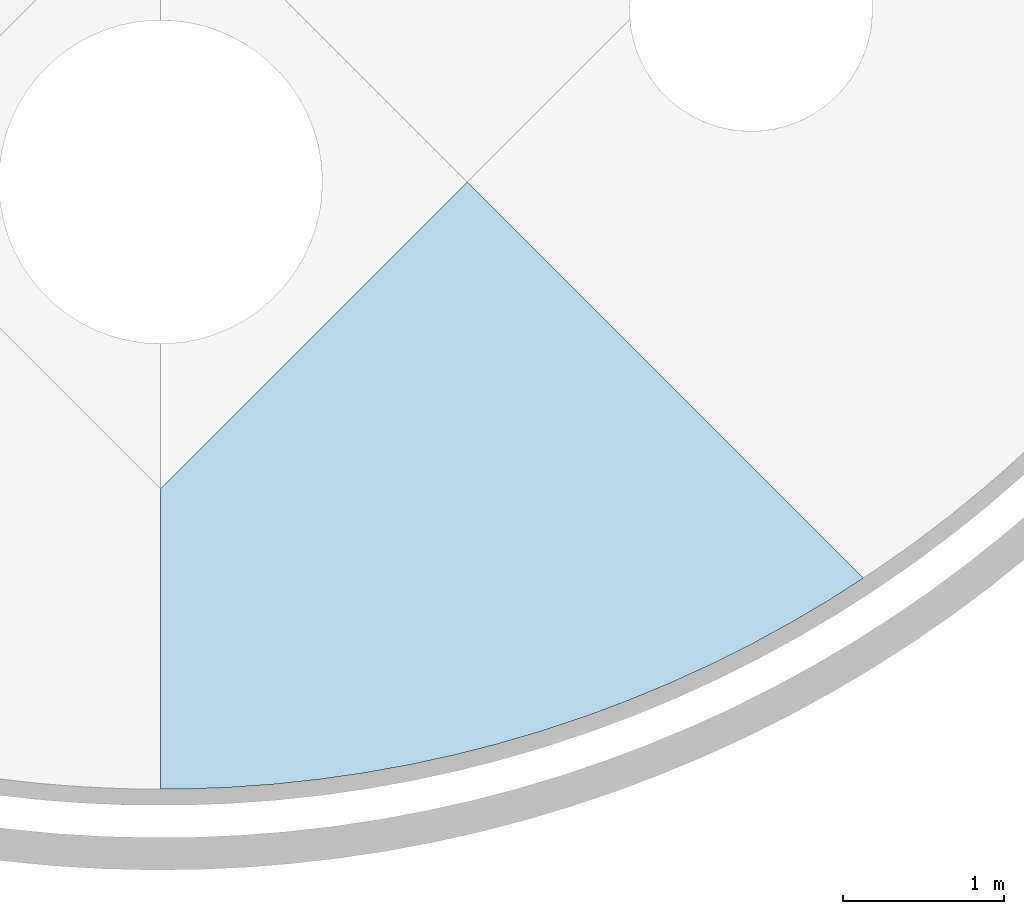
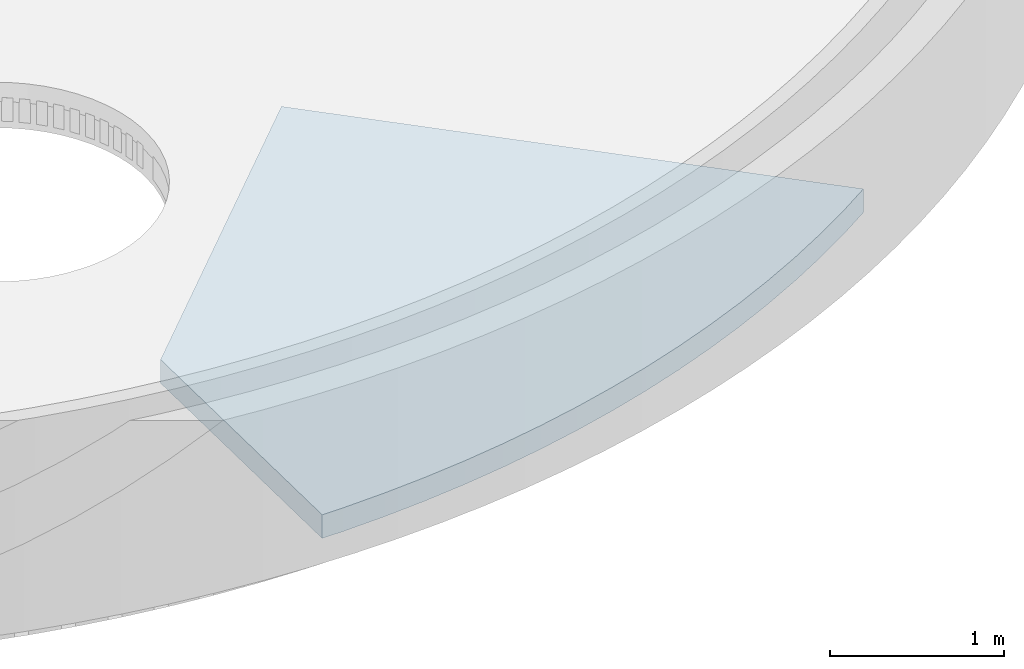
# One storey, part 5 of 10: 1 slab.
"""IFC4 building model written with IfcOpenShell, lengths in millimetres."""

from ifc_helpers import new_model, entity, si_unit, converted_unit, derived_unit, direction, frame, origin_with_axes, place, context, subcontext, project, spatial, polygons, material, constituent, constituent_set, type_object, element, save


model = new_model("IFC4")

# Units and contexts
model_context = context("Model", 3, precision=0.01, world=origin_with_axes(), true_north=direction((0.0, 1.0)))
body_context = subcontext(model_context, "Body", "Model", "MODEL_VIEW")
ifc_project = project(units=[si_unit("LENGTHUNIT", "METRE", prefix="MILLI"), si_unit("AREAUNIT", "SQUARE_METRE"), si_unit("VOLUMEUNIT", "CUBIC_METRE"), converted_unit("PLANEANGLEUNIT", "DEGREE", entity("IfcPlaneAngleMeasure", 0.0174532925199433), si_unit("PLANEANGLEUNIT", "RADIAN"), dimensions=[0, 0, 0, 0, 0, 0, 0]), converted_unit("TIMEUNIT", "Year", entity("IfcTimeMeasure", 31557600.0), si_unit("TIMEUNIT", "SECOND"), dimensions=[0, 0, 1, 0, 0, 0, 0]), si_unit("MASSUNIT", "GRAM", prefix="KILO"), si_unit("THERMODYNAMICTEMPERATUREUNIT", "DEGREE_CELSIUS"), si_unit("LUMINOUSINTENSITYUNIT", "LUMEN"), si_unit("ENERGYUNIT", "JOULE", prefix="MEGA"), derived_unit("THERMALCONDUCTANCEUNIT", [(si_unit("POWERUNIT", "WATT"), 1), (si_unit("LENGTHUNIT", "METRE"), -1), (si_unit("THERMODYNAMICTEMPERATUREUNIT", "KELVIN"), -1)]), derived_unit("SPECIFICHEATCAPACITYUNIT", [(si_unit("ENERGYUNIT", "JOULE"), 1), (si_unit("MASSUNIT", "GRAM", prefix="KILO"), -1), (si_unit("THERMODYNAMICTEMPERATUREUNIT", "KELVIN"), -1)]), derived_unit("MASSDENSITYUNIT", [(si_unit("MASSUNIT", "GRAM", prefix="KILO"), 1), (si_unit("VOLUMEUNIT", "CUBIC_METRE"), -1)])], contexts=[model_context])

# Site, building, storey
site_placement = place(None, origin_with_axes())
site = spatial("IfcSite", under=ifc_project, at=site_placement, Name="Exteriér", CompositionType="ELEMENT")
building_placement = place(site_placement, origin_with_axes())
building = spatial("IfcBuilding", under=site, at=building_placement, Name="Univerzitní lezecké centrum", CompositionType="ELEMENT")
storey_placement = place(building_placement, frame((0.0, 0.0, 9600.000000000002), z_axis=(0.0, 0.0, 1.0), x_axis=(1.0, 0.0, 0.0)))
storey = spatial("IfcBuildingStorey", under=building, at=storey_placement, Name="4.NP", CompositionType="ELEMENT", Elevation=9600.0)

# Slab
ifc_material_1 = material(Name="TPO fólie ochranná")
ifc_constituent_1 = constituent(ifc_material_1, Name="TPO fólie ochranná")
ifc_material_2 = material(Name="Geotextilie 200 g/m2")
ifc_constituent_2 = constituent(ifc_material_2, Name="Geotextilie 200 g/m2")
ifc_material_3 = material(Name="Hydroizolace - TPO fólie")
ifc_constituent_3 = constituent(ifc_material_3, Name="Hydroizolace - TPO fólie")
ifc_material_4 = material(Name="Tepelná izolace - polystyren EPS podlahy")
ifc_constituent_4 = constituent(ifc_material_4, Name="Tepelná izolace - polystyren EPS podlahy")
ifc_constituent_set = constituent_set(constituents=[ifc_constituent_1, ifc_constituent_2, ifc_constituent_3, ifc_constituent_4], Name="!Podlaha spádovaná - terasy - TI + HI vrstva")
slab_type = type_object("IfcSlabType", Name="!Podlaha spádovaná - terasy - TI + HI vrstva 166", PredefinedType="ROOF")
slab_placement = place(storey_placement, frame((5887.716672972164, -4447.558334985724, -300.0062110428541), z_axis=(0.0, 0.0, 1.0), x_axis=(-0.9999973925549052, 0.002283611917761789, 0.0)))
element("IfcSlab", 1, at=slab_placement, inside=storey, type_object=slab_type, material=ifc_constituent_set, PredefinedType="ROOF", context=body_context, shape_type="Tessellation", body=[
    polygons([(3433.658163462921, 1900.177471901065, 204.0367461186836), (3429.29323787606, 3760.282644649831, 241.2388495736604), (3288.263956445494, 3759.960700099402, 241.2324106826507), (3006.40809596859, 3749.249892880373, 241.0181945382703), (2725.114120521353, 3728.485816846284, 240.6029130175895), (2444.740496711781, 3697.694932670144, 239.987095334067), (2165.644518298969, 3656.916478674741, 239.1715262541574), (1888.181850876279, 3606.20242082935, 238.1572450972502), (1612.706078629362, 3545.617386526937, 236.9455444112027), (1339.568253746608, 3475.238582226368, 235.5379683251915), (1069.116449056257, 3395.15569506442, 233.9363105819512), (801.6953144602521, 3305.470778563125, 232.1426122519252), (537.6456377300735, 3206.298122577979, 230.1591591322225), (277.3039102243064, 3097.764107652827, 227.9884788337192), (21.00189808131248, 2980.007043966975, 225.6333375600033), (-230.9337805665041, 2853.176995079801, 223.09673658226), (-478.1820718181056, 2717.435586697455, 220.3819084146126), (-720.4278951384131, 2572.955800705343, 217.4923126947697), (-920.4225951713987, 2443.06551673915, 214.8945070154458), (1537.878244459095, -4.03326464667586, 165.9525313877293), (3433.658257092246, 1900.177565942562, 202.0363480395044), (3429.293331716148, 3760.282644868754, 239.2384496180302), (3288.263956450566, 3759.960700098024, 239.2320107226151), (3006.408095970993, 3749.249892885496, 239.0177945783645), (2725.114120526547, 3728.485816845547, 238.6025130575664), (2444.740496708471, 3697.69493266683, 237.9866953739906), (2165.644518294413, 3656.916478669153, 237.1711262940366), (1888.181850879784, 3606.202420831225, 236.1568451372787), (1612.706078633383, 3545.617386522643, 234.9451444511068), (1339.568253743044, 3475.238582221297, 233.5375683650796), (1069.116449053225, 3395.155695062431, 231.9359106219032), (801.6953144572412, 3305.470778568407, 230.1422122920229), (537.6456377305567, 3206.298122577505, 228.1587591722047), (277.3039102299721, 3097.764107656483, 225.9880788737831), (21.00189808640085, 2980.007043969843, 223.6329376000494), (-230.9337805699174, 2853.176995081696, 221.0963366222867), (-478.1820718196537, 2717.435586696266, 218.3815084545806), (-720.427895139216, 2572.955800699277, 215.49191273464), (-920.4225951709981, 2443.065516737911, 212.894107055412), (1537.878244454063, -4.033264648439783, 163.9521314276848)], [[[1, 2, 3, 4, 5, 6, 7, 8, 9, 10, 11, 12, 13, 14, 15, 16, 17, 18, 19, 20]], [[1, 21, 22, 2]], [[2, 22, 23, 3]], [[3, 23, 24, 4]], [[4, 24, 25, 5]], [[5, 25, 26, 6]], [[6, 26, 27, 7]], [[7, 27, 28, 8]], [[8, 28, 29, 9]], [[9, 29, 30, 10]], [[10, 30, 31, 11]], [[11, 31, 32, 12]], [[12, 32, 33, 13]], [[13, 33, 34, 14]], [[14, 34, 35, 15]], [[15, 35, 36, 16]], [[16, 36, 37, 17]], [[17, 37, 38, 18]], [[18, 38, 39, 19]], [[19, 39, 40, 20]], [[20, 40, 21, 1]], [[21, 40, 39, 38, 37, 36, 35, 34, 33, 32, 31, 30, 29, 28, 27, 26, 25, 24, 23, 22]]], closed=True),
    polygons([(1537.878244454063, -4.033264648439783, 163.9521314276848), (1537.878244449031, -4.033264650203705, 161.9517314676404), (3433.658350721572, 1900.17765998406, 200.035949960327), (3433.658257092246, 1900.177565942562, 202.0363480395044), (-920.4225951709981, 2443.065516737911, 212.894107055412), (-920.4225951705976, 2443.065516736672, 210.8937070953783), (-720.4278951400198, 2572.955800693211, 213.4915127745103), (-478.1820718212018, 2717.435586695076, 216.3811084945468), (-230.9337805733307, 2853.17699508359, 219.0959366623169), (21.00189809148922, 2980.007043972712, 221.6325376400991), (277.3039102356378, 3097.764107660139, 223.9876789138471), (537.6456377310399, 3206.29812257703, 226.1583592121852), (801.6953144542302, 3305.47077857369, 228.1418123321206), (1069.116449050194, 3395.155695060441, 229.9355106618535), (1339.56825373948, 3475.238582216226, 231.5371684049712), (1612.706078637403, 3545.617386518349, 232.9447444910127), (1888.181850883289, 3606.202420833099, 234.156445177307), (2165.644518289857, 3656.916478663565, 235.1707263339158), (2444.740496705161, 3697.694932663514, 235.986295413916), (2725.114120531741, 3728.485816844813, 236.6021130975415), (3006.408095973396, 3749.249892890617, 237.0173946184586), (3288.263956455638, 3759.960700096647, 237.2316107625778), (3429.293425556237, 3760.282645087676, 237.2380496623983), (3429.293331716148, 3760.282644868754, 239.2384496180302), (3288.263956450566, 3759.960700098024, 239.2320107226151), (3006.408095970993, 3749.249892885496, 239.0177945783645), (2725.114120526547, 3728.485816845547, 238.6025130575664), (2444.740496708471, 3697.69493266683, 237.9866953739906), (2165.644518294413, 3656.916478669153, 237.1711262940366), (1888.181850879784, 3606.202420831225, 236.1568451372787), (1612.706078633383, 3545.617386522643, 234.9451444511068), (1339.568253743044, 3475.238582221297, 233.5375683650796), (1069.116449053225, 3395.155695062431, 231.9359106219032), (801.6953144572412, 3305.470778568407, 230.1422122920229), (537.6456377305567, 3206.298122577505, 228.1587591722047), (277.3039102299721, 3097.764107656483, 225.9880788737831), (21.00189808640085, 2980.007043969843, 223.6329376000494), (-230.9337805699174, 2853.176995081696, 221.0963366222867), (-478.1820718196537, 2717.435586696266, 218.3815084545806), (-720.427895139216, 2572.955800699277, 215.49191273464)], [[[1, 2, 3, 4]], [[5, 6, 2, 1]], [[3, 2, 6, 7, 8, 9, 10, 11, 12, 13, 14, 15, 16, 17, 18, 19, 20, 21, 22, 23]], [[4, 3, 23, 24]], [[4, 24, 25, 26, 27, 28, 29, 30, 31, 32, 33, 34, 35, 36, 37, 38, 39, 40, 5, 1]], [[40, 7, 6, 5]], [[39, 8, 7, 40]], [[38, 9, 8, 39]], [[37, 10, 9, 38]], [[36, 11, 10, 37]], [[35, 12, 11, 36]], [[34, 13, 12, 35]], [[33, 14, 13, 34]], [[32, 15, 14, 33]], [[31, 16, 15, 32]], [[30, 17, 16, 31]], [[29, 18, 17, 30]], [[28, 19, 18, 29]], [[27, 20, 19, 28]], [[26, 21, 20, 27]], [[25, 22, 21, 26]], [[24, 23, 22, 25]]], closed=True),
    polygons([(1537.87824444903, -4.033264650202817, 161.951731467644), (1537.878244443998, -4.033264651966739, 159.9513315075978), (3433.658444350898, 1900.177754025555, 198.0355518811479), (3433.658350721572, 1900.17765998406, 200.035949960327), (-920.4225951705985, 2443.065516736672, 210.89370709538), (-920.4225951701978, 2443.065516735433, 208.8933071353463), (-720.4278951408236, 2572.955800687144, 211.4911128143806), (-478.1820718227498, 2717.435586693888, 214.3807085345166), (-230.9337805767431, 2853.176995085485, 217.095536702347), (21.00189809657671, 2980.007043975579, 219.6321376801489), (277.3039102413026, 3097.764107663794, 221.9872789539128), (537.645637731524, 3206.298122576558, 224.1579592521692), (801.6953144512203, 3305.470778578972, 226.1414123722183), (1069.116449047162, 3395.155695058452, 227.9351107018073), (1339.568253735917, 3475.238582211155, 229.5367684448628), (1612.706078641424, 3545.617386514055, 230.9443445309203), (1888.181850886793, 3606.202420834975, 232.1560452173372), (2165.644518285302, 3656.91647865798, 233.1703263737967), (2444.74049670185, 3697.6949326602, 233.9858954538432), (2725.114120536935, 3728.485816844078, 234.6017131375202), (3006.408095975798, 3749.249892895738, 235.0169946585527), (3288.263956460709, 3759.960700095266, 235.2312108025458), (3429.293519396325, 3760.2826453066, 235.2376497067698), (3429.293425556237, 3760.282645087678, 237.2380496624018), (3288.263956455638, 3759.960700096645, 237.2316107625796), (3006.408095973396, 3749.249892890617, 237.0173946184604), (2725.114120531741, 3728.485816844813, 236.6021130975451), (2444.740496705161, 3697.694932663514, 235.9862954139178), (2165.644518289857, 3656.916478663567, 235.1707263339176), (1888.181850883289, 3606.202420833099, 234.1564451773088), (1612.706078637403, 3545.61738651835, 232.9447444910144), (1339.568253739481, 3475.238582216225, 231.5371684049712), (1069.116449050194, 3395.155695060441, 229.9355106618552), (801.6953144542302, 3305.47077857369, 228.1418123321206), (537.6456377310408, 3206.298122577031, 226.1583592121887), (277.3039102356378, 3097.764107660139, 223.9876789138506), (21.00189809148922, 2980.007043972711, 221.6325376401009), (-230.9337805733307, 2853.176995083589, 219.0959366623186), (-478.1820718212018, 2717.435586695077, 216.3811084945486), (-720.4278951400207, 2572.955800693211, 213.491512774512)], [[[1, 2, 3, 4]], [[5, 6, 2, 1]], [[3, 2, 6, 7, 8, 9, 10, 11, 12, 13, 14, 15, 16, 17, 18, 19, 20, 21, 22, 23]], [[4, 3, 23, 24]], [[4, 24, 25, 26, 27, 28, 29, 30, 31, 32, 33, 34, 35, 36, 37, 38, 39, 40, 5, 1]], [[40, 7, 6, 5]], [[39, 8, 7, 40]], [[38, 9, 8, 39]], [[37, 10, 9, 38]], [[36, 11, 10, 37]], [[35, 12, 11, 36]], [[34, 13, 12, 35]], [[33, 14, 13, 34]], [[32, 15, 14, 33]], [[31, 16, 15, 32]], [[30, 17, 16, 31]], [[29, 18, 17, 30]], [[28, 19, 18, 29]], [[27, 20, 19, 28]], [[26, 21, 20, 27]], [[25, 22, 21, 26]], [[24, 23, 22, 25]]], closed=True),
    polygons([(1537.878244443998, -4.033264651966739, 159.9513315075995), (1537.878244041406, -4.033264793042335, -0.08066549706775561), (3433.665934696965, 1900.185277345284, 38.00370534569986), (3433.658444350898, 1900.177754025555, 198.0355518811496), (-920.4225951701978, 2443.065516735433, 208.8933071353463), (-920.4225951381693, 2443.065516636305, 48.86131013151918), (-720.4278952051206, 2572.95580020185, 51.45911580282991), (-478.1820719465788, 2717.435586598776, 54.34871153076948), (-230.9337808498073, 2853.176995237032, 57.06353970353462), (21.00189850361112, 2980.007044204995, 59.60014068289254), (277.3039106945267, 3097.764107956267, 61.95528195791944), (537.6456377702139, 3206.298122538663, 64.12596224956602), (801.6953142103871, 3305.470779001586, 66.10941537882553), (1069.116448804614, 3395.155694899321, 67.90311369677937), (1339.568253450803, 3475.238581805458, 69.50477143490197), (1612.7060789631, 3545.617386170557, 70.91234752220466), (1888.181851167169, 3606.202420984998, 72.12404821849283), (2165.644517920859, 3656.916478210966, 73.13832936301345), (2444.74049643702, 3697.694932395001, 73.95389844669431), (2725.114120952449, 3728.48581678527, 74.56971613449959), (3006.408096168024, 3749.249893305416, 74.98499766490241), (3288.263956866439, 3759.960699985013, 75.19921379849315), (3429.301026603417, 3760.282662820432, 75.20565305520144), (3429.293519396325, 3760.2826453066, 235.2376497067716), (3288.263956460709, 3759.960700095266, 235.2312108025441), (3006.408095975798, 3749.249892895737, 235.0169946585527), (2725.114120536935, 3728.485816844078, 234.601713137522), (2444.74049670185, 3697.6949326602, 233.9858954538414), (2165.644518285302, 3656.91647865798, 233.1703263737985), (1888.181850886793, 3606.202420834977, 232.156045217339), (1612.706078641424, 3545.617386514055, 230.9443445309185), (1339.568253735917, 3475.238582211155, 229.536768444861), (1069.116449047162, 3395.155695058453, 227.9351107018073), (801.6953144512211, 3305.470778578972, 226.1414123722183), (537.645637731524, 3206.298122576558, 224.1579592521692), (277.3039102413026, 3097.764107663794, 221.9872789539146), (21.00189809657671, 2980.007043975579, 219.6321376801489), (-230.9337805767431, 2853.176995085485, 217.095536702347), (-478.182071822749, 2717.435586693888, 214.3807085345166), (-720.4278951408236, 2572.955800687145, 211.4911128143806)], [[[1, 2, 3, 4]], [[5, 6, 2, 1]], [[2, 6, 7, 8, 9, 10, 11, 12, 13, 14, 15, 16, 17, 18, 19, 20, 21, 22, 23, 3]], [[4, 3, 23, 24]], [[4, 24, 25, 26, 27, 28, 29, 30, 31, 32, 33, 34, 35, 36, 37, 38, 39, 40, 5, 1]], [[40, 7, 6, 5]], [[39, 8, 7, 40]], [[38, 9, 8, 39]], [[37, 10, 9, 38]], [[36, 11, 10, 37]], [[35, 12, 11, 36]], [[34, 13, 12, 35]], [[33, 14, 13, 34]], [[32, 15, 14, 33]], [[31, 16, 15, 32]], [[30, 17, 16, 31]], [[29, 18, 17, 30]], [[28, 19, 18, 29]], [[27, 20, 19, 28]], [[26, 21, 20, 27]], [[25, 22, 21, 26]], [[24, 23, 22, 25]]], closed=True),
])

save(model, "model.ifc")
